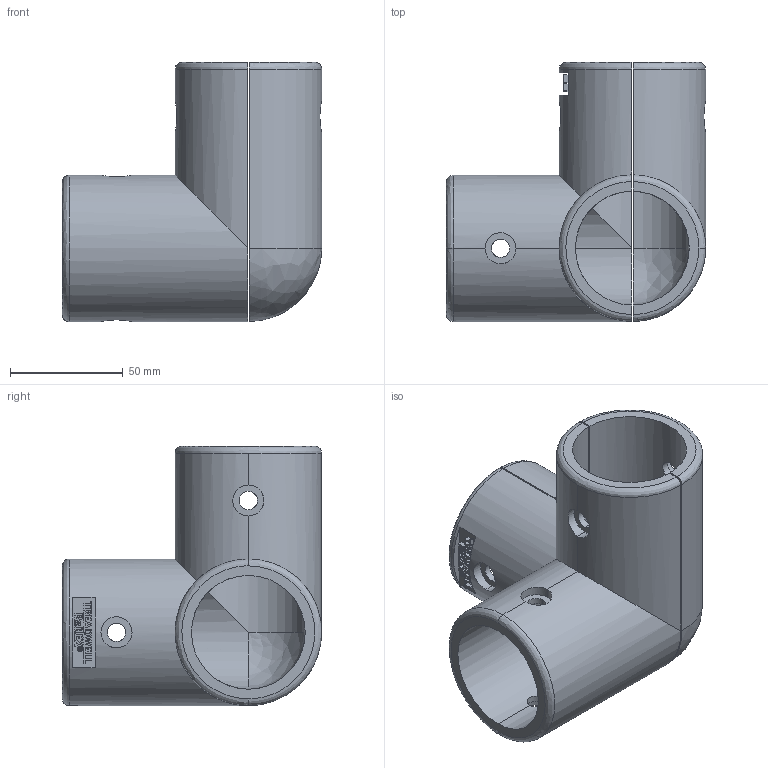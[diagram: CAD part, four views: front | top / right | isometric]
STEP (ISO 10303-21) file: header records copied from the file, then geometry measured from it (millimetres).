
FILE_DESCRIPTION (( 'STEP AP203' ), '1' );
FILE_NAME ('RAILEX STANDARD RXR-CTCJ.STEP', '2021-06-17T10:51:51', ( '' ), ( '' ), 'SwSTEP 2.0', 'SolidWorks 2020', '' );
FILE_SCHEMA (( 'CONFIG_CONTROL_DESIGN' ));
Length unit declared in the file: millimetre
Products named in the file (1): RAILEX STANDARD RXR-CTCJ
Bounding box: 115 x 115 x 115 mm (x, y, z)
Volume: 264870.6 mm3; surface area: 84626.1 mm2
Topology: 3 solids, 3 shells, 325 faces, 868 edges, 572 vertices
Faces by surface type: plane 193, bspline 90, cylinder 42
Entity records: 14116 total; most frequent: CARTESIAN_POINT 6563, ORIENTED_EDGE 1732, DIRECTION 1189, EDGE_CURVE 866, VECTOR 593, LINE 593, VERTEX_POINT 572, EDGE_LOOP 364
